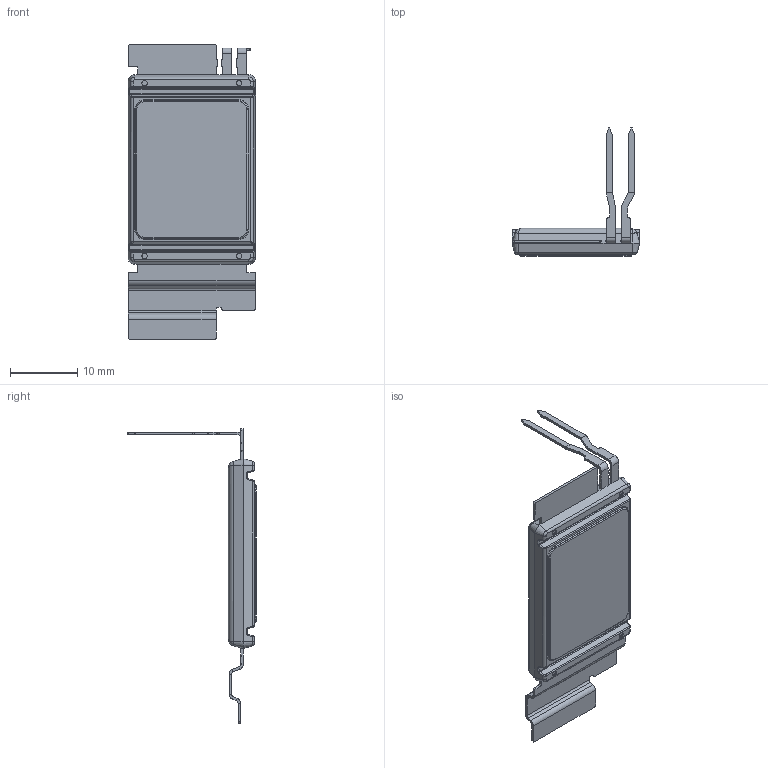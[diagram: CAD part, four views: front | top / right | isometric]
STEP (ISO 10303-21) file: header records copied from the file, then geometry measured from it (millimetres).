
FILE_DESCRIPTION (( 'STEP AP214' ), '1' );
FILE_NAME ('EDB005M12TM4L - (External Only Model).STEP', '2025-03-28T20:19:41', ( '' ), ( '' ), 'SwSTEP 2.0', 'SolidWorks 2024', '' );
FILE_SCHEMA (( 'AUTOMOTIVE_DESIGN' ));
Length unit declared in the file: millimetre
Products named in the file (1): EDB005M12TM4L - (External Only Model)
Bounding box: 18.95 x 19 x 43.65 mm (x, y, z)
Volume: 2074.4 mm3; surface area: 2060.6 mm2
Topology: 1 solids, 1 shells, 322 faces, 799 edges, 498 vertices
Faces by surface type: plane 139, cylinder 131, cone 20, bspline 20, torus 12
Entity records: 12308 total; most frequent: CARTESIAN_POINT 4630, DIRECTION 1633, ORIENTED_EDGE 1590, EDGE_CURVE 795, AXIS2_PLACEMENT_3D 579, VERTEX_POINT 498, LINE 475, VECTOR 475
